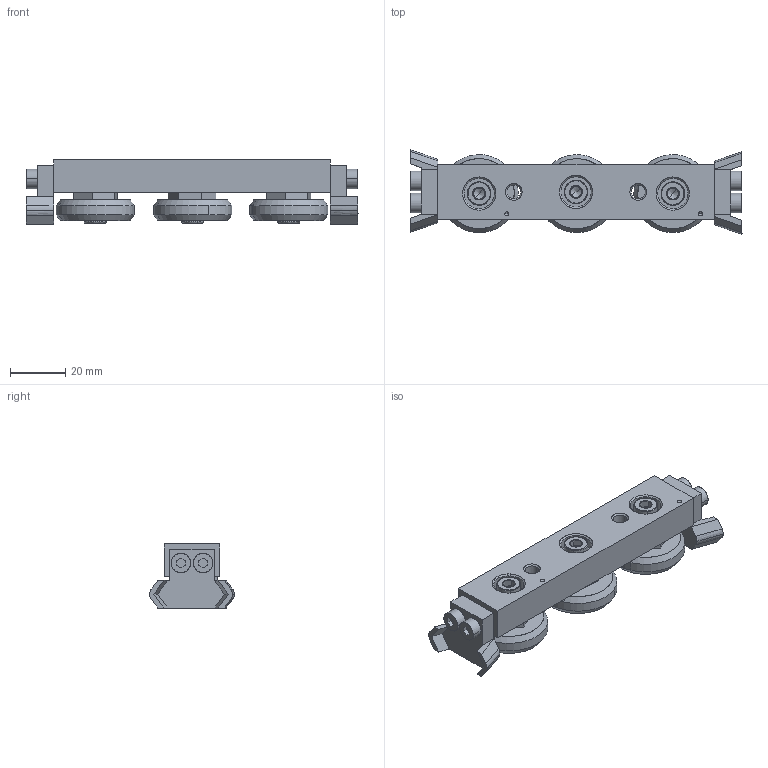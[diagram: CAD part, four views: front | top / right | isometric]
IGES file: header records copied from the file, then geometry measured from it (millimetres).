
Start section: SolidWorks IGES file using analytic representation for surfaces
Global section: file name: C:\Users\liam_\OneDrive\Documents\WORK\Work for WixRoyd\Job Files\J-00018 - L1918-L1963 LCompact Rail\L1935_v2\L1935.CSW35_v2\L1935.CSW35_v2_20190522_IGES\L1935.CSW35-100-2ZT.igs; native system: SolidWorks 2017; preprocessor: SolidWorks 2017; author: liam_; date: 190528.222537; units: millimetre
Bounding box: 120 x 30.56 x 23.2 mm (x, y, z)
Surface area: 18895.2 mm2 (no closed solid volume)
Topology: 0 solids, 0 shells, 342 faces, 3911 edges, 3893 vertices
Faces by surface type: bspline 173, revolution 169
